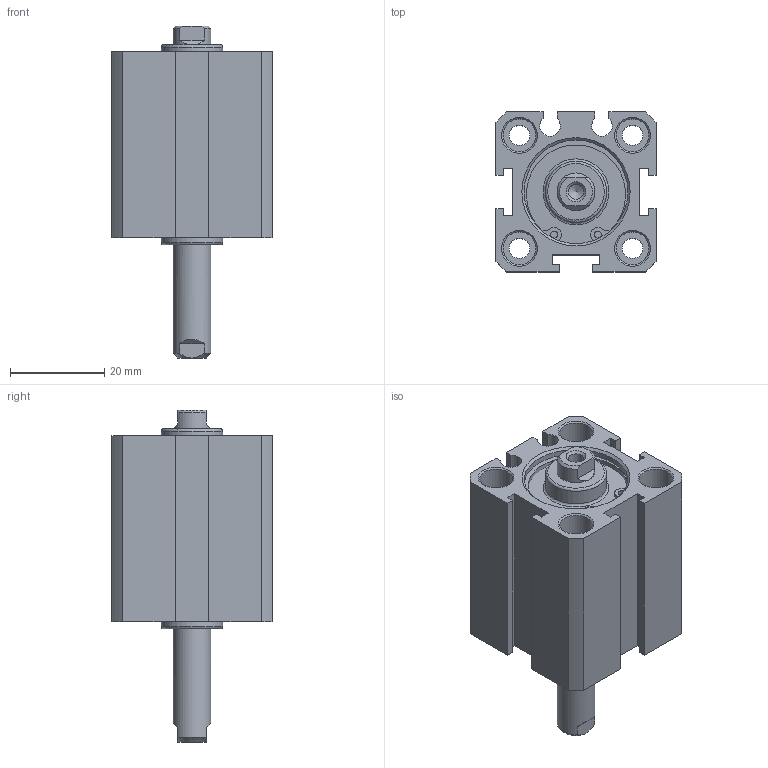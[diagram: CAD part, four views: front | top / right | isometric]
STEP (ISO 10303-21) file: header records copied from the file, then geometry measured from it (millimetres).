
FILE_DESCRIPTION((''),'2;1');
FILE_NAME('I:\3D電子目錄\氣缸\JDD\JDD\JDD20\JDD20x20.stp','2007-02-08T08:57:00',('662F206'),(''),'Autodesk Inventor 10','Autodesk Inventor 10','');
FILE_SCHEMA(('AUTOMOTIVE_DESIGN { 1 0 10303 214 1 1 1 1 }'));
Length unit declared in the file: millimetre
Products named in the file (3): JDD20; R 形環 23
Assembly tree (3 placements, depth 2):
  JDD20
    JDD20
    R 形環 23  x2
Bounding box: 34 x 34 x 70.5 mm (x, y, z)
Volume: 37050.5 mm3; surface area: 14595.2 mm2
Topology: 3 solids, 3 shells, 149 faces, 346 edges, 225 vertices
Faces by surface type: plane 70, cylinder 47, cone 18, bspline 12, torus 2
Full cylindrical faces by diameter (mm): 1.5 x6, 4.3 x4, 7 x8, 8 x1, 13 x2, 22 x4, 23.2 x2
Entity records: 3819 total; most frequent: CARTESIAN_POINT 813, DIRECTION 626, ORIENTED_EDGE 514, EDGE_CURVE 257, AXIS2_PLACEMENT_3D 246, EDGE_LOOP 220, VERTEX_POINT 195, FACE_OUTER_BOUND 137
